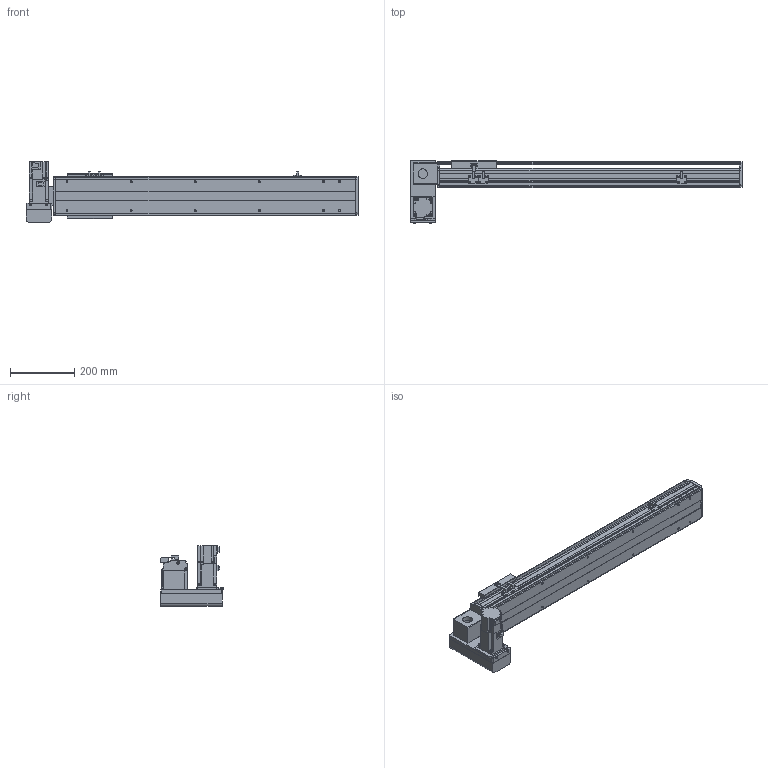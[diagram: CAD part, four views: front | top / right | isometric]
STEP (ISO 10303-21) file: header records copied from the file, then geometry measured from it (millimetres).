
FILE_DESCRIPTION( ( 'STEP AP214' ), '1' );
FILE_NAME( 'x:/temp/worker_27/temp/exporttempdir_6708_42_hQVpR/format_0/PBS120-P40-S650-LD-T40-C1-N(0).stp', '2022-06-06T00:16:00', ( 'License CC BY-ND 4.0' ), ( 'CADENAS' ), ' ', 'PARTsolutions', ' ' );
FILE_SCHEMA( ( 'AUTOMOTIVE_DESIGN { 1 0 10303 214 1 1 1 1 }' ) );
Length unit declared in the file: millimetre
Products named in the file (7): PBS120-P40-S650-LD-T40-C1-N(0); _PBS120-S650()_body; _PBS120T-LD_motors; _T40-p1; _PBS120_sliser; _PBS120_plant; _PBS120_sensor
Assembly tree (8 placements, depth 2):
  PBS120-P40-S650-LD-T40-C1-N(0)
    _PBS120-S650()_body
    _PBS120T-LD_motors
    _T40-p1
    _PBS120_sliser
    _PBS120_plant
    _PBS120_sensor  x3
Bounding box: 1036 x 196 x 189.7 mm (x, y, z)
Volume: 4821851.7 mm3; surface area: 912546.3 mm2
Topology: 8 solids, 8 shells, 816 faces, 2136 edges, 1375 vertices
Faces by surface type: plane 545, cylinder 225, cone 44, torus 2
Full cylindrical faces by diameter (mm): 2.459 x6, 3.242 x4, 4 x2, 4.134 x4, 4.5 x10, 4.917 x16, 5.5 x11, 6 x2, 6.6 x1, 7 x2, 8.5 x4, 9 x4, 12 x1, 14 x1, 30 x2, 40 x1, 50 x2
Entity records: 26988 total; most frequent: DIRECTION 3692, CARTESIAN_POINT 3641, ORIENTED_EDGE 3478, EDGE_CURVE 1739, AXIS2_PLACEMENT_3D 1232, LINE 1228, VECTOR 1228, VERTEX_POINT 1181
